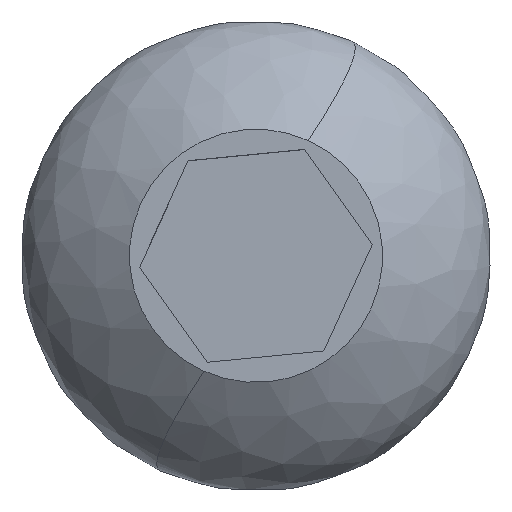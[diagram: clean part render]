
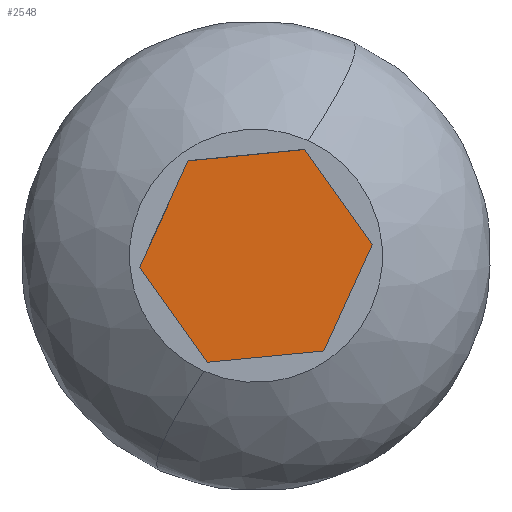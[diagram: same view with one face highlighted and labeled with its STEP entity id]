
A CAD part, top view. The second image highlights one B-rep face of the part: STEP entity #2548.
In plain terms, the highlighted planar face has unit normal (0, 0, 1).
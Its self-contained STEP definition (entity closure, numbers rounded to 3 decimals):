
#21 = CARTESIAN_POINT ( 'NONE',  ( 2.684, -3.759, 2. ) ) ;
#164 = ORIENTED_EDGE ( 'NONE', *, *, #2245, .T. ) ;
#309 = CARTESIAN_POINT ( 'NONE',  ( -4.597, -0.445, 2. ) ) ;
#330 = CARTESIAN_POINT ( 'NONE',  ( -2.684, 3.759, 2. ) ) ;
#432 = LINE ( 'NONE', #21, #1925 ) ;
#549 = VERTEX_POINT ( 'NONE', #3330 ) ;
#696 = EDGE_CURVE ( 'NONE', #3852, #2658, #432, .T. ) ;
#793 = CARTESIAN_POINT ( 'NONE',  ( 2.684, -3.759, 2. ) ) ;
#849 = EDGE_CURVE ( 'NONE', #2997, #1330, #2193, .T. ) ;
#1113 = ORIENTED_EDGE ( 'NONE', *, *, #1198, .T. ) ;
#1198 = EDGE_CURVE ( 'NONE', #2658, #549, #2507, .T. ) ;
#1330 = VERTEX_POINT ( 'NONE', #309 ) ;
#1667 = VECTOR ( 'NONE', #2138, 1000. ) ;
#1707 = DIRECTION ( 'NONE',  ( -0.581, 0.814, 0. ) ) ;
#1908 = DIRECTION ( 'NONE',  ( 1., 0., 0. ) ) ;
#1909 = DIRECTION ( 'NONE',  ( 0.995, 0.096, 0. ) ) ;
#1925 = VECTOR ( 'NONE', #3572, 1000. ) ;
#2107 = CARTESIAN_POINT ( 'NONE',  ( 4.597, 0.445, 2. ) ) ;
#2138 = DIRECTION ( 'NONE',  ( 0.581, -0.814, 0. ) ) ;
#2193 = LINE ( 'NONE', #3730, #2948 ) ;
#2245 = EDGE_CURVE ( 'NONE', #2883, #3852, #3124, .T. ) ;
#2248 = VECTOR ( 'NONE', #1909, 1000. ) ;
#2281 = FACE_OUTER_BOUND ( 'NONE', #2485, .T. ) ;
#2311 = DIRECTION ( 'NONE',  ( 0., 0., 1. ) ) ;
#2312 = CARTESIAN_POINT ( 'NONE',  ( -1.914, -4.204, 2. ) ) ;
#2485 = EDGE_LOOP ( 'NONE', ( #2806, #3070, #164, #3067, #1113, #2730 ) ) ;
#2507 = LINE ( 'NONE', #2107, #3358 ) ;
#2523 = DIRECTION ( 'NONE',  ( -0.995, -0.096, 0. ) ) ;
#2536 = CARTESIAN_POINT ( 'NONE',  ( -4.597, -0.445, 2. ) ) ;
#2548 = ADVANCED_FACE ( 'NONE', ( #2281 ), #3533, .T. ) ;
#2556 = EDGE_CURVE ( 'NONE', #549, #2997, #3345, .T. ) ;
#2587 = AXIS2_PLACEMENT_3D ( 'NONE', #2719, #2311, #1908 ) ;
#2658 = VERTEX_POINT ( 'NONE', #3771 ) ;
#2719 = CARTESIAN_POINT ( 'NONE',  ( 0., 0., 2. ) ) ;
#2730 = ORIENTED_EDGE ( 'NONE', *, *, #2556, .T. ) ;
#2806 = ORIENTED_EDGE ( 'NONE', *, *, #849, .T. ) ;
#2883 = VERTEX_POINT ( 'NONE', #3259 ) ;
#2936 = CARTESIAN_POINT ( 'NONE',  ( 1.914, 4.204, 2. ) ) ;
#2948 = VECTOR ( 'NONE', #3323, 1000. ) ;
#2949 = LINE ( 'NONE', #2536, #1667 ) ;
#2997 = VERTEX_POINT ( 'NONE', #330 ) ;
#3067 = ORIENTED_EDGE ( 'NONE', *, *, #696, .T. ) ;
#3070 = ORIENTED_EDGE ( 'NONE', *, *, #3623, .T. ) ;
#3103 = VECTOR ( 'NONE', #2523, 1000. ) ;
#3124 = LINE ( 'NONE', #2312, #2248 ) ;
#3259 = CARTESIAN_POINT ( 'NONE',  ( -1.914, -4.204, 2. ) ) ;
#3323 = DIRECTION ( 'NONE',  ( -0.414, -0.91, 0. ) ) ;
#3330 = CARTESIAN_POINT ( 'NONE',  ( 1.914, 4.204, 2. ) ) ;
#3345 = LINE ( 'NONE', #2936, #3103 ) ;
#3358 = VECTOR ( 'NONE', #1707, 1000. ) ;
#3533 = PLANE ( 'NONE',  #2587 ) ;
#3572 = DIRECTION ( 'NONE',  ( 0.414, 0.91, 0. ) ) ;
#3623 = EDGE_CURVE ( 'NONE', #1330, #2883, #2949, .T. ) ;
#3730 = CARTESIAN_POINT ( 'NONE',  ( -2.684, 3.759, 2. ) ) ;
#3771 = CARTESIAN_POINT ( 'NONE',  ( 4.597, 0.445, 2. ) ) ;
#3852 = VERTEX_POINT ( 'NONE', #793 ) ;
